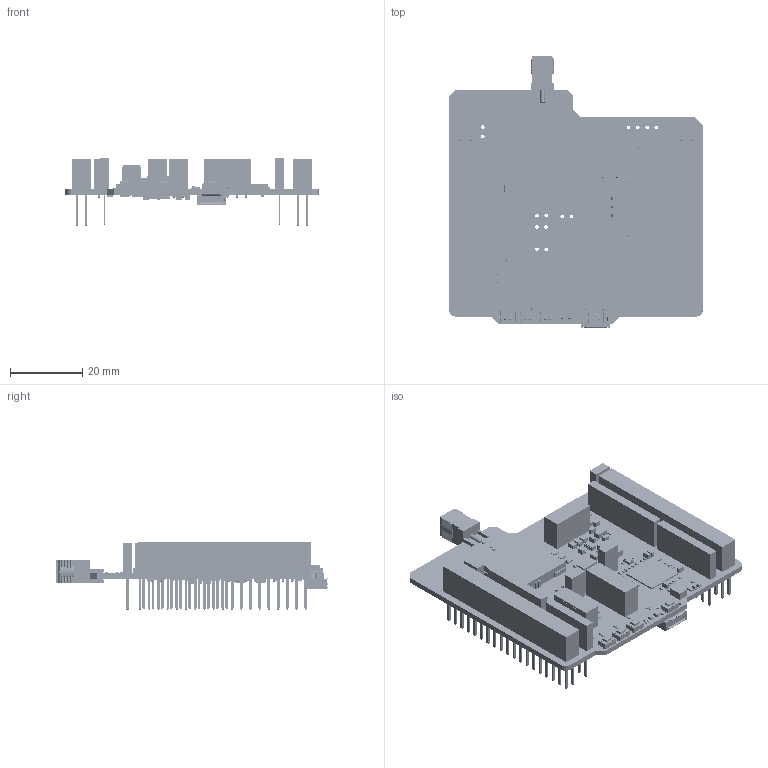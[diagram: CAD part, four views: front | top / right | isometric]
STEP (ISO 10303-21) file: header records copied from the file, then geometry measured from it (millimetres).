
FILE_DESCRIPTION(('Open CASCADE Model'),'2;1');
FILE_NAME('Open CASCADE Shape Model','2020-07-27T18:24:34',('Author'),( 'Open CASCADE'),'Open CASCADE STEP processor 6.8','Open CASCADE 6.8' ,'Unknown');
FILE_SCHEMA(('AUTOMOTIVE_DESIGN { 1 0 10303 214 1 1 1 1 }'));
Length unit declared in the file: millimetre
Products named in the file (468): PCB; Board; Open CASCADE STEP translator 6.8 1.1.1; SC8; s0981-46; 6631619888; Extruded; SC9; 6630729712; SC2; s0911-46; 6631619008; C35; C0603; 6631618288; L3; INDC1005X50-MURATA_LQW15A; 6616442864; SC7; Shield_clip_s0951-46; 6631619808; SC6; SC5; 6631615248; STICKER-3; 6630398352; STICKER-2; 6630398592; STICKER-1; 6630398832; B4; Switch-CK-KMR2; User_Library-Switch-CK-KMR2_Button; User_Library-Switch-CK-KMR2_Boitier; User_Library-Switch-CK-KMR2_Tole; User_Library-Switch-CK-KMR2_Pads; 6616910320; 6616910000; B1; B2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
Assembly tree (1102 placements, depth 4):
  PCB
    Board
      Open CASCADE STEP translator 6.8 1.1.1
    SC8
      s0981-46
      6631619888
        Extruded
    SC9
      s0981-46
      6630729712
        Extruded
    SC2
      s0911-46
      6631619008
        Extruded
    C35
      C0603
      6631618288
        Extruded
    L3
      INDC1005X50-MURATA_LQW15A
      6616442864
        Extruded
    SC7
      Shield_clip_s0951-46
      6631619808
        Extruded
    SC6
      Shield_clip_s0951-46
      6631619808
        Extruded
    SC5
      Shield_clip_s0951-46
      6631615248
        Extruded
    STICKER-3
      6630398352
        Extruded
    STICKER-2
      6630398592
        Extruded
    STICKER-1
      6630398832
        Extruded
    B4
      Switch-CK-KMR2
        User_Library-Switch-CK-KMR2_Button
        User_Library-Switch-CK-KMR2_Boitier
        User_Library-Switch-CK-KMR2_Tole
        User_Library-Switch-CK-KMR2_Pads
      6616910320
        Extruded
      6616910000
        Extruded
    B1
      Switch-CK-KMR2
        User_Library-Switch-CK-KMR2_Button
        User_Library-Switch-CK-KMR2_Boitier
        User_Library-Switch-CK-KMR2_Tole
        User_Library-Switch-CK-KMR2_Pads
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Bounding box: 69.97 x 75.15 x 18.67 mm (x, y, z)
Volume: 20680.5 mm3; surface area: 35853.3 mm2
Topology: 949 solids, 964 shells, 31001 faces, 75103 edges, 44672 vertices
Faces by surface type: plane 15572, cylinder 7556, bspline 5060, sphere 1937, revolution 560, torus 287, cone 29
Full cylindrical faces by diameter (mm): 0.2 x2, 0.3 x1, 0.4 x2, 0.5 x1, 0.6 x1, 0.9 x2, 0.97 x2, 1 x122, 1.1 x32, 1.19 x2, 1.27 x2, 4.1 x1, 4.25 x1, 4.63 x1, 5.35 x2, 6.33 x1
Entity records: 274390 total; most frequent: CARTESIAN_POINT 55124, ORIENTED_EDGE 36722, DIRECTION 36073, EDGE_CURVE 18364, LINE 15861, VECTOR 15861, VERTEX_POINT 11565, AXIS2_PLACEMENT_3D 10102
